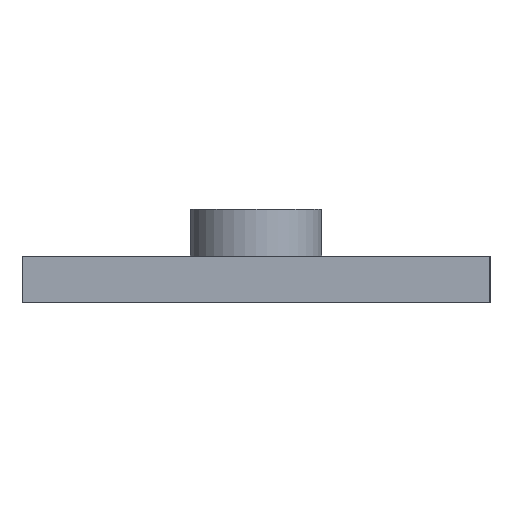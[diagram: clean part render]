
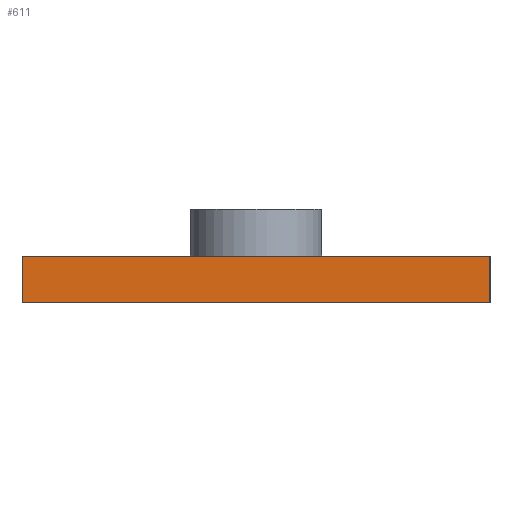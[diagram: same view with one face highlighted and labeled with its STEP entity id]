
A CAD part, left-side view. The second image highlights one B-rep face of the part: STEP entity #611.
In plain terms, the highlighted planar face has unit normal (-1, 0, 0).
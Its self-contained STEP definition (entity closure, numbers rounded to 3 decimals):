
#22 = VERTEX_POINT('',#23);
#23 = CARTESIAN_POINT('',(-22.,10.,0.));
#32 = PLANE('',#33);
#33 = AXIS2_PLACEMENT_3D('',#34,#35,#36);
#34 = CARTESIAN_POINT('',(31.,-17.,0.));
#35 = DIRECTION('',(0.,0.,1.));
#36 = DIRECTION('',(-1.,0.,0.));
#44 = PLANE('',#45);
#45 = AXIS2_PLACEMENT_3D('',#46,#47,#48);
#46 = CARTESIAN_POINT('',(-22.,10.,4.));
#47 = DIRECTION('',(0.,1.,0.));
#48 = DIRECTION('',(1.,0.,0.));
#56 = EDGE_CURVE('',#57,#22,#59,.T.);
#57 = VERTEX_POINT('',#58);
#58 = CARTESIAN_POINT('',(-22.,-10.,0.));
#59 = SURFACE_CURVE('',#60,(#64,#71),.PCURVE_S1.);
#60 = LINE('',#61,#62);
#61 = CARTESIAN_POINT('',(-22.,-10.,0.));
#62 = VECTOR('',#63,1.);
#63 = DIRECTION('',(0.,1.,0.));
#64 = PCURVE('',#32,#65);
#65 = DEFINITIONAL_REPRESENTATION('',(#66),#70);
#66 = LINE('',#67,#68);
#67 = CARTESIAN_POINT('',(53.,-7.));
#68 = VECTOR('',#69,1.);
#69 = DIRECTION('',(0.,-1.));
#70 = ( GEOMETRIC_REPRESENTATION_CONTEXT(2) 
PARAMETRIC_REPRESENTATION_CONTEXT() REPRESENTATION_CONTEXT('2D SPACE',''
  ) );
#71 = PCURVE('',#72,#77);
#72 = PLANE('',#73);
#73 = AXIS2_PLACEMENT_3D('',#74,#75,#76);
#74 = CARTESIAN_POINT('',(-22.,-10.,4.));
#75 = DIRECTION('',(1.,0.,0.));
#76 = DIRECTION('',(0.,1.,0.));
#77 = DEFINITIONAL_REPRESENTATION('',(#78),#82);
#78 = LINE('',#79,#80);
#79 = CARTESIAN_POINT('',(0.,-4.));
#80 = VECTOR('',#81,1.);
#81 = DIRECTION('',(1.,0.));
#82 = ( GEOMETRIC_REPRESENTATION_CONTEXT(2) 
PARAMETRIC_REPRESENTATION_CONTEXT() REPRESENTATION_CONTEXT('2D SPACE',''
  ) );
#100 = PLANE('',#101);
#101 = AXIS2_PLACEMENT_3D('',#102,#103,#104);
#102 = CARTESIAN_POINT('',(-22.,-10.,4.));
#103 = DIRECTION('',(0.,1.,0.));
#104 = DIRECTION('',(1.,0.,0.));
#441 = EDGE_CURVE('',#442,#22,#444,.T.);
#442 = VERTEX_POINT('',#443);
#443 = CARTESIAN_POINT('',(-22.,10.,2.));
#444 = SURFACE_CURVE('',#445,(#449,#456),.PCURVE_S1.);
#445 = LINE('',#446,#447);
#446 = CARTESIAN_POINT('',(-22.,10.,4.));
#447 = VECTOR('',#448,1.);
#448 = DIRECTION('',(0.,0.,-1.));
#449 = PCURVE('',#44,#450);
#450 = DEFINITIONAL_REPRESENTATION('',(#451),#455);
#451 = LINE('',#452,#453);
#452 = CARTESIAN_POINT('',(0.,0.));
#453 = VECTOR('',#454,1.);
#454 = DIRECTION('',(0.,1.));
#455 = ( GEOMETRIC_REPRESENTATION_CONTEXT(2) 
PARAMETRIC_REPRESENTATION_CONTEXT() REPRESENTATION_CONTEXT('2D SPACE',''
  ) );
#456 = PCURVE('',#72,#457);
#457 = DEFINITIONAL_REPRESENTATION('',(#458),#462);
#458 = LINE('',#459,#460);
#459 = CARTESIAN_POINT('',(20.,0.));
#460 = VECTOR('',#461,1.);
#461 = DIRECTION('',(0.,-1.));
#462 = ( GEOMETRIC_REPRESENTATION_CONTEXT(2) 
PARAMETRIC_REPRESENTATION_CONTEXT() REPRESENTATION_CONTEXT('2D SPACE',''
  ) );
#480 = PLANE('',#481);
#481 = AXIS2_PLACEMENT_3D('',#482,#483,#484);
#482 = CARTESIAN_POINT('',(29.,-15.,2.));
#483 = DIRECTION('',(0.,0.,1.));
#484 = DIRECTION('',(-1.,0.,0.));
#566 = EDGE_CURVE('',#567,#57,#569,.T.);
#567 = VERTEX_POINT('',#568);
#568 = CARTESIAN_POINT('',(-22.,-10.,2.));
#569 = SURFACE_CURVE('',#570,(#574,#581),.PCURVE_S1.);
#570 = LINE('',#571,#572);
#571 = CARTESIAN_POINT('',(-22.,-10.,4.));
#572 = VECTOR('',#573,1.);
#573 = DIRECTION('',(0.,0.,-1.));
#574 = PCURVE('',#100,#575);
#575 = DEFINITIONAL_REPRESENTATION('',(#576),#580);
#576 = LINE('',#577,#578);
#577 = CARTESIAN_POINT('',(0.,0.));
#578 = VECTOR('',#579,1.);
#579 = DIRECTION('',(0.,1.));
#580 = ( GEOMETRIC_REPRESENTATION_CONTEXT(2) 
PARAMETRIC_REPRESENTATION_CONTEXT() REPRESENTATION_CONTEXT('2D SPACE',''
  ) );
#581 = PCURVE('',#72,#582);
#582 = DEFINITIONAL_REPRESENTATION('',(#583),#587);
#583 = LINE('',#584,#585);
#584 = CARTESIAN_POINT('',(0.,0.));
#585 = VECTOR('',#586,1.);
#586 = DIRECTION('',(0.,-1.));
#587 = ( GEOMETRIC_REPRESENTATION_CONTEXT(2) 
PARAMETRIC_REPRESENTATION_CONTEXT() REPRESENTATION_CONTEXT('2D SPACE',''
  ) );
#611 = ADVANCED_FACE('',(#612),#72,.F.);
#612 = FACE_BOUND('',#613,.F.);
#613 = EDGE_LOOP('',(#614,#615,#636,#637));
#614 = ORIENTED_EDGE('',*,*,#441,.F.);
#615 = ORIENTED_EDGE('',*,*,#616,.F.);
#616 = EDGE_CURVE('',#567,#442,#617,.T.);
#617 = SURFACE_CURVE('',#618,(#622,#629),.PCURVE_S1.);
#618 = LINE('',#619,#620);
#619 = CARTESIAN_POINT('',(-22.,-12.5,2.));
#620 = VECTOR('',#621,1.);
#621 = DIRECTION('',(0.,1.,0.));
#622 = PCURVE('',#72,#623);
#623 = DEFINITIONAL_REPRESENTATION('',(#624),#628);
#624 = LINE('',#625,#626);
#625 = CARTESIAN_POINT('',(-2.5,-2.));
#626 = VECTOR('',#627,1.);
#627 = DIRECTION('',(1.,0.));
#628 = ( GEOMETRIC_REPRESENTATION_CONTEXT(2) 
PARAMETRIC_REPRESENTATION_CONTEXT() REPRESENTATION_CONTEXT('2D SPACE',''
  ) );
#629 = PCURVE('',#480,#630);
#630 = DEFINITIONAL_REPRESENTATION('',(#631),#635);
#631 = LINE('',#632,#633);
#632 = CARTESIAN_POINT('',(51.,-2.5));
#633 = VECTOR('',#634,1.);
#634 = DIRECTION('',(0.,-1.));
#635 = ( GEOMETRIC_REPRESENTATION_CONTEXT(2) 
PARAMETRIC_REPRESENTATION_CONTEXT() REPRESENTATION_CONTEXT('2D SPACE',''
  ) );
#636 = ORIENTED_EDGE('',*,*,#566,.T.);
#637 = ORIENTED_EDGE('',*,*,#56,.T.);
